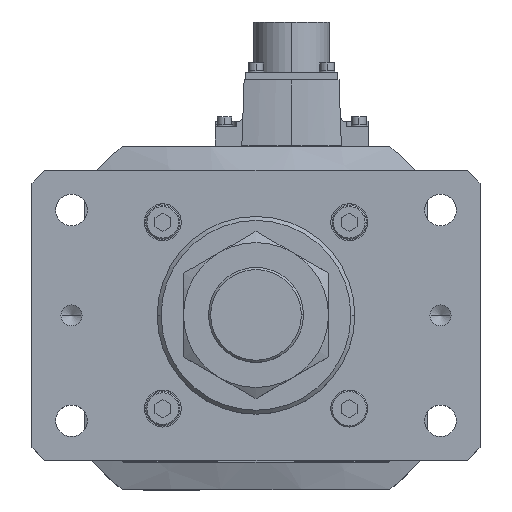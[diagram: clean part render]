
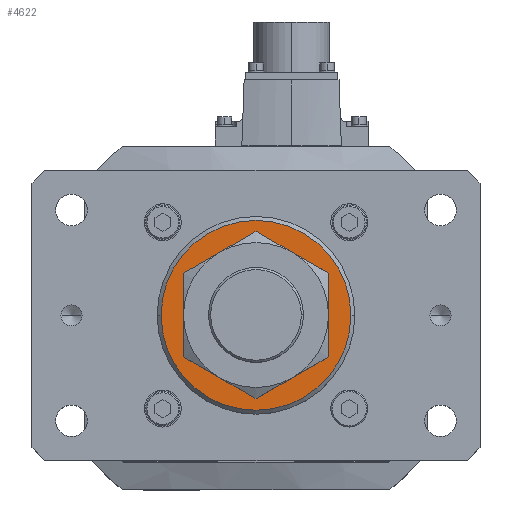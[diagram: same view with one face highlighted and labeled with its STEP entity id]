
A CAD part, top view. The second image highlights one B-rep face of the part: STEP entity #4622.
In plain terms, the highlighted planar face has unit normal (0, 0, 1).
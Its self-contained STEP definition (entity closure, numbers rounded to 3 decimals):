
#293 = FACE_BOUND ( 'NONE', #10791, .T. ) ;
#1344 = DIRECTION ( 'NONE',  ( 1., 0., 0. ) ) ;
#2096 = ORIENTED_EDGE ( 'NONE', *, *, #25142, .T. ) ;
#2625 = CARTESIAN_POINT ( 'NONE',  ( 0., 0., 346. ) ) ;
#2754 = DIRECTION ( 'NONE',  ( 0., 0., 1. ) ) ;
#3756 = DIRECTION ( 'NONE',  ( 1., 0., 0. ) ) ;
#4199 = VERTEX_POINT ( 'NONE', #29587 ) ;
#4310 = CARTESIAN_POINT ( 'NONE',  ( 0., 0., 346. ) ) ;
#4622 = ADVANCED_FACE ( 'NONE', ( #293, #22179 ), #7177, .T. ) ;
#7177 = PLANE ( 'NONE',  #7292 ) ;
#7222 = ORIENTED_EDGE ( 'NONE', *, *, #15803, .T. ) ;
#7292 = AXIS2_PLACEMENT_3D ( 'NONE', #4310, #7301, #30161 ) ;
#7301 = DIRECTION ( 'NONE',  ( 0., 0., 1. ) ) ;
#9918 = ORIENTED_EDGE ( 'NONE', *, *, #12587, .T. ) ;
#10791 = EDGE_LOOP ( 'NONE', ( #9918, #2096 ) ) ;
#11328 = VERTEX_POINT ( 'NONE', #31060 ) ;
#12587 = EDGE_CURVE ( 'NONE', #17192, #4199, #16568, .T. ) ;
#14882 = AXIS2_PLACEMENT_3D ( 'NONE', #29860, #18454, #1344 ) ;
#15803 = EDGE_CURVE ( 'NONE', #11328, #32560, #21288, .T. ) ;
#16568 = CIRCLE ( 'NONE', #29577, 23. ) ;
#17192 = VERTEX_POINT ( 'NONE', #24400 ) ;
#18454 = DIRECTION ( 'NONE',  ( 0., 0., 1. ) ) ;
#18920 = EDGE_CURVE ( 'NONE', #32560, #11328, #34074, .T. ) ;
#20844 = CARTESIAN_POINT ( 'NONE',  ( 0., 0., 346. ) ) ;
#20965 = DIRECTION ( 'NONE',  ( 0., 0., -1. ) ) ;
#21288 = CIRCLE ( 'NONE', #33435, 36. ) ;
#21429 = CARTESIAN_POINT ( 'NONE',  ( 0., 0., 346. ) ) ;
#22179 = FACE_OUTER_BOUND ( 'NONE', #34539, .T. ) ;
#24400 = CARTESIAN_POINT ( 'NONE',  ( 23., 0., 346. ) ) ;
#24460 = DIRECTION ( 'NONE',  ( 1., 0., 0. ) ) ;
#24906 = CIRCLE ( 'NONE', #33161, 23. ) ;
#25142 = EDGE_CURVE ( 'NONE', #4199, #17192, #24906, .T. ) ;
#25251 = DIRECTION ( 'NONE',  ( 1., 0., 0. ) ) ;
#29577 = AXIS2_PLACEMENT_3D ( 'NONE', #21429, #29714, #24460 ) ;
#29587 = CARTESIAN_POINT ( 'NONE',  ( -23., 0., 346. ) ) ;
#29714 = DIRECTION ( 'NONE',  ( 0., 0., -1. ) ) ;
#29860 = CARTESIAN_POINT ( 'NONE',  ( 0., 0., 346. ) ) ;
#30161 = DIRECTION ( 'NONE',  ( 1., 0., 0. ) ) ;
#31060 = CARTESIAN_POINT ( 'NONE',  ( 36., 0., 346. ) ) ;
#32560 = VERTEX_POINT ( 'NONE', #34860 ) ;
#33161 = AXIS2_PLACEMENT_3D ( 'NONE', #20844, #20965, #3756 ) ;
#33435 = AXIS2_PLACEMENT_3D ( 'NONE', #2625, #2754, #25251 ) ;
#33845 = ORIENTED_EDGE ( 'NONE', *, *, #18920, .T. ) ;
#34074 = CIRCLE ( 'NONE', #14882, 36. ) ;
#34539 = EDGE_LOOP ( 'NONE', ( #33845, #7222 ) ) ;
#34860 = CARTESIAN_POINT ( 'NONE',  ( -36., 0., 346. ) ) ;
